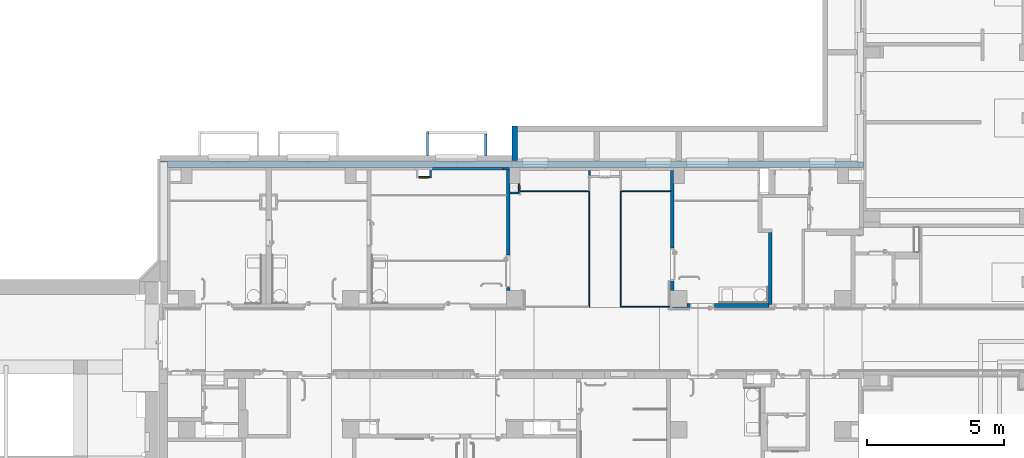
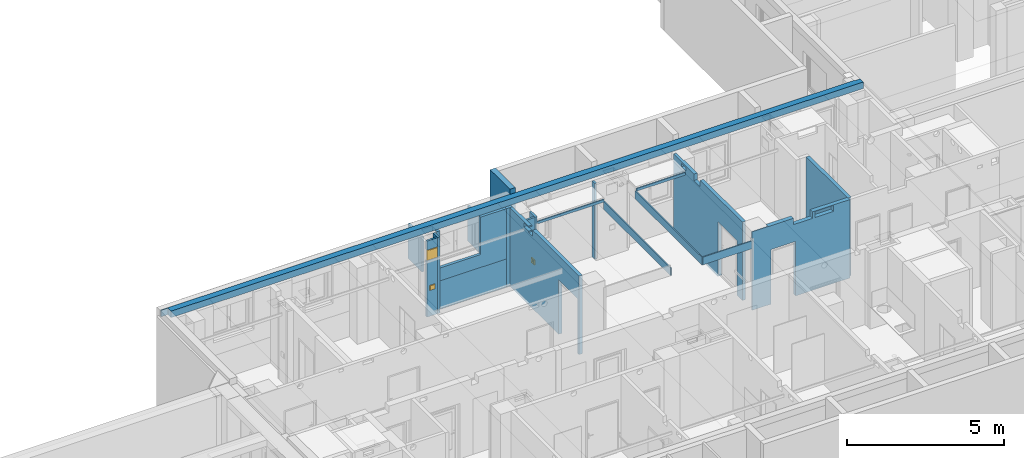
# One storey, part 25 of 84: 21 walls, 3 windows, 16 openings.
"""IFC4 building model written with IfcOpenShell, lengths in metres."""

from ifc_helpers import new_model, entity, si_unit, converted_unit, derived_unit, frame, frame_2d, origin, origin_with_axes, place, context, subcontext, project, spatial, polyline, rectangle, outline, extrude, faceted_brep, source, transform, mapped, material, layer, layer_set, layer_usage, element, fill, save


model = new_model("IFC4")

# Units and contexts
model_context = context("Model", 3, precision=1e-05, world=origin())
body_context = subcontext(model_context, "Body", "Model", "MODEL_VIEW")
ifc_project = project(units=[si_unit("LENGTHUNIT", "METRE"), si_unit("AREAUNIT", "SQUARE_METRE"), si_unit("VOLUMEUNIT", "CUBIC_METRE"), si_unit("MASSUNIT", "GRAM", prefix="KILO"), converted_unit("PLANEANGLEUNIT", "DEGREE", entity("IfcPlaneAngleMeasure", 0.0174532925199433), si_unit("PLANEANGLEUNIT", "RADIAN"), dimensions=[0, 0, 0, 0, 0, 0, 0]), derived_unit("THERMALTRANSMITTANCEUNIT", [(si_unit("POWERUNIT", "WATT"), 1), (si_unit("THERMODYNAMICTEMPERATUREUNIT", "KELVIN"), -1), (si_unit("LENGTHUNIT", "METRE"), -2)]), derived_unit("VOLUMETRICFLOWRATEUNIT", [(si_unit("LENGTHUNIT", "METRE"), 3), (converted_unit("TIMEUNIT", "hour", entity("IfcTimeMeasure", 3600.0), si_unit("TIMEUNIT", "SECOND"), dimensions=[0, 0, 1, 0, 0, 0, 0]), -1), (si_unit("LENGTHUNIT", "METRE"), -1)])], contexts=[model_context])

# Site, building, storey
site_placement = place(None, origin())
site = spatial("IfcSite", under=ifc_project, at=site_placement, Name="3. ASŘ", CompositionType="ELEMENT")
building_placement = place(site_placement, origin())
building = spatial("IfcBuilding", under=site, at=building_placement, Name="Pavilon C", CompositionType="ELEMENT")
storey_placement = place(building_placement, frame((0.0, 0.0, -3.3)))
storey = spatial("IfcBuildingStorey", under=building, at=storey_placement, Name="Půdorys 1.PP", CompositionType="ELEMENT", Elevation=-3.3)

# Walls
ifc_material_1 = material(Name="ZELEZOBETONOVÁ KCE")
ifc_layer_1 = layer(ifc_material_1, 0.2)
ifc_layer_set_1 = layer_set([ifc_layer_1])
ifc_layer_usage_1 = layer_usage(ifc_layer_set_1, "AXIS2", "POSITIVE", -0.1)
wall_1_placement = place(storey_placement, frame((12.1, 15.245, -0.4), z_axis=(0.0, 0.0, 1.0), x_axis=(0.0, 1.0, 0.0)))
element("IfcWall", 1, at=wall_1_placement, inside=storey, material=ifc_layer_usage_1, Name="ZELEZOBETONOVÁ KCE", context=body_context, shape_type="SweptSolid", body=[
    extrude(rectangle(XDim=1.26, YDim=0.2, at=frame_2d((0.63, 0.1), x_axis=(1.0, 0.0))), origin_with_axes(), (0.0, 0.0, 1.0), 3.78),
])
ifc_material_2 = material(Name="PÓROBETONOVÉ ZDIVO")
ifc_layer_2 = layer(ifc_material_2, 0.1)
ifc_layer_set_2 = layer_set([ifc_layer_2])
ifc_layer_usage_2 = layer_usage(ifc_layer_set_2, "AXIS2", "POSITIVE", 0.0)
wall_2_placement = place(storey_placement, frame((11.575, 15.0, -0.1), z_axis=(0.0, 0.0, 1.0), x_axis=(-1.0, 0.0, 0.0)))
element("IfcWall", 2, at=wall_2_placement, inside=storey, material=ifc_layer_usage_2, Name="PÓROBETONOVÉ ZDIVO", context=body_context, shape_type="SweptSolid", body=[
    extrude(rectangle(XDim=2.575, YDim=0.1, at=frame_2d((1.2875, 0.05), x_axis=(1.0, 0.0))), origin_with_axes(), (0.0, 0.0, 1.0), 1.1),
])
ifc_material_3 = material(Name="ZELEZOBETONOVÁ KCE")
ifc_layer_3 = layer(ifc_material_3, 0.200000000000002)
ifc_material_4 = material(Name="LIGNOPOR")
ifc_layer_4 = layer(ifc_material_4, 0.025)
ifc_layer_set_3 = layer_set([ifc_layer_3, ifc_layer_4])
ifc_layer_usage_3 = layer_usage(ifc_layer_set_3, "AXIS2", "POSITIVE", 0.0)
wall_3_placement = place(storey_placement, frame((-0.699999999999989, 15.0, 2.95), z_axis=(0.0, 0.0, 1.0), x_axis=(1.0, -2.85892244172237e-16, 0.0)))
element("IfcWall", 3, at=wall_3_placement, inside=storey, material=ifc_layer_usage_3, context=body_context, shape_type="SweptSolid", body=[
    extrude(outline(polyline([(0.25, 7.34743067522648e-15), (25.7, 7.34743067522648e-15), (25.7, 0.200000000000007), (25.5, 0.200000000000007), (25.5, 0.225000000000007), (-6.43257549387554e-17, 0.225000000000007), (-5.71784488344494e-17, 0.200000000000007), (0.25, 0.200000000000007), (0.25, 7.34743067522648e-15)])), frame((-0.25, -7.34743067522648e-15, 0.0), z_axis=(0.0, 0.0, 1.0), x_axis=(1.0, 0.0, 0.0)), (0.0, 0.0, 1.0), 0.25),
])
ifc_material_5 = material(Name="YTONG 100")
ifc_layer_5 = layer(ifc_material_5, 0.1)
ifc_layer_set_4 = layer_set([ifc_layer_5])
ifc_layer_usage_4 = layer_usage(ifc_layer_set_4, "AXIS2", "POSITIVE", 0.0)
wall_4_placement = place(storey_placement, frame((11.8, 15.0, -0.1), z_axis=(0.0, 0.0, 1.0), x_axis=(-1.0, -1.61687946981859e-14, 0.0)))
element("IfcWall", 4, at=wall_4_placement, inside=storey, material=ifc_layer_usage_4, Name="YTONG 100", context=body_context, shape_type="SweptSolid", body=[
    extrude(rectangle(XDim=0.224999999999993, YDim=0.1, at=frame_2d((0.112499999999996, 0.05), x_axis=(1.0, 0.0))), origin_with_axes(), (0.0, 0.0, 1.0), 3.05),
])
ifc_material_6 = material(Name="POHLEDOVY BETON")
ifc_layer_6 = layer(ifc_material_6, 0.08)
ifc_layer_set_5 = layer_set([ifc_layer_6])
ifc_layer_usage_5 = layer_usage(ifc_layer_set_5, "AXIS2", "POSITIVE", 0.0)
wall_5_placement = place(storey_placement, frame((8.85000000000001, 15.425, 1.15), z_axis=(0.0, 0.0, 1.0), x_axis=(0.0, 1.0, 0.0)))
element("IfcWall", 5, at=wall_5_placement, inside=storey, material=ifc_layer_usage_5, Name="STĚNA ANGLICKÉHO DVORKU", context=body_context, shape_type="SweptSolid", body=[
    extrude(rectangle(XDim=0.880000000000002, YDim=0.08, at=frame_2d((0.440000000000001, 0.04), x_axis=(1.0, 0.0))), origin_with_axes(), (0.0, 0.0, 1.0), 1.35),
])
ifc_material_7 = material(Name="POHLEDOVY BETON")
ifc_layer_7 = layer(ifc_material_7, 0.08)
ifc_layer_set_6 = layer_set([ifc_layer_7])
ifc_layer_usage_6 = layer_usage(ifc_layer_set_6, "AXIS2", "POSITIVE", 0.0)
wall_6_placement = place(storey_placement, frame((10.98, 15.425, 1.15), z_axis=(0.0, 0.0, 1.0), x_axis=(0.0, 1.0, 0.0)))
element("IfcWall", 6, at=wall_6_placement, inside=storey, material=ifc_layer_usage_6, Name="STĚNA ANGLICKÉHO DVORKU", context=body_context, shape_type="SweptSolid", body=[
    extrude(rectangle(XDim=0.800000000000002, YDim=0.08, at=frame_2d((0.400000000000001, 0.04), x_axis=(1.0, 0.0))), origin_with_axes(), (0.0, 0.0, 1.0), 1.35),
])
ifc_material_8 = material(Name="SDK SVISLA CAST PODHLEDU")
ifc_layer_8 = layer(ifc_material_8, 0.0400000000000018)
ifc_layer_set_7 = layer_set([ifc_layer_8])
ifc_layer_usage_7 = layer_usage(ifc_layer_set_7, "AXIS2", "POSITIVE", 0.0)
wall_7_placement = place(storey_placement, frame((14.7, 14.14, 2.3), z_axis=(0.0, 0.0, 1.0), x_axis=(0.0, -1.0, 0.0)))
element("IfcWall", 7, at=wall_7_placement, inside=storey, material=ifc_layer_usage_7, Name="SDK SVISLA CAST PODHLEDU", context=body_context, shape_type="SweptSolid", body=[
    extrude(rectangle(XDim=4.265, YDim=0.0400000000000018, at=frame_2d((2.1325, 0.0200000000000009), x_axis=(1.0, 0.0))), origin_with_axes(), (0.0, 0.0, 1.0), 0.3),
])
ifc_material_9 = material(Name="SDK SVISLA CAST PODHLEDU")
ifc_layer_9 = layer(ifc_material_9, 0.0400000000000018)
ifc_layer_set_8 = layer_set([ifc_layer_9])
ifc_layer_usage_8 = layer_usage(ifc_layer_set_8, "AXIS2", "POSITIVE", 0.0)
wall_8_placement = place(storey_placement, frame((15.9, 9.875, 2.3), z_axis=(0.0, 0.0, 1.0), x_axis=(0.0, 1.0, 0.0)))
element("IfcWall", 8, at=wall_8_placement, inside=storey, material=ifc_layer_usage_8, Name="SDK SVISLA CAST PODHLEDU", context=body_context, shape_type="SweptSolid", body=[
    extrude(rectangle(XDim=4.265, YDim=0.0400000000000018, at=frame_2d((2.1325, 0.0200000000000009), x_axis=(1.0, 0.0))), origin_with_axes(), (0.0, 0.0, 1.0), 0.3),
])
ifc_material_10 = material(Name="SDK SVISLA CAST PODHLEDU")
ifc_layer_10 = layer(ifc_material_10, 0.0400000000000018)
ifc_layer_set_9 = layer_set([ifc_layer_10])
ifc_layer_usage_9 = layer_usage(ifc_layer_set_9, "AXIS2", "POSITIVE", 0.0)
wall_9_placement = place(storey_placement, frame((15.9, 9.875, 2.3)))
element("IfcWall", 9, at=wall_9_placement, inside=storey, material=ifc_layer_usage_9, Name="SDK SVISLA CAST PODHLEDU", context=body_context, shape_type="SweptSolid", body=[
    extrude(rectangle(XDim=1.8, YDim=0.0400000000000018, at=frame_2d((0.899999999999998, 0.0200000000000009), x_axis=(1.0, 0.0))), origin_with_axes(), (0.0, 0.0, 1.0), 0.3),
])

# Wall, opening
ifc_material_11 = material(Name="YTONG 100")
ifc_layer_11 = layer(ifc_material_11, 0.1)
ifc_layer_set_10 = layer_set([ifc_layer_11])
ifc_layer_usage_10 = layer_usage(ifc_layer_set_10, "AXIS2", "POSITIVE", 0.0)
wall_10_placement = place(storey_placement, frame((9.00000000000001, 14.9, 1.0)))
wall_10 = element("IfcWall", 10, at=wall_10_placement, inside=storey, material=ifc_layer_usage_10, Name="YTONG 100", context=body_context, shape_type="SweptSolid", body=[
    extrude(rectangle(XDim=2.575, YDim=0.1, at=frame_2d((1.2875, 0.05), x_axis=(1.0, 0.0))), origin_with_axes(), (0.0, 0.0, 1.0), 1.95),
])
opening_1_placement = place(wall_10_placement, frame((0.124999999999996, 0.0, 0.5), z_axis=(0.0, 1.0, 0.0), x_axis=(0.0, 0.0, 1.0)))
element("IfcOpeningElement", 11, at=opening_1_placement, cuts=wall_10, Name="Okenní otvor", ObjectType="Opening", context=body_context, shape_type="SweptSolid", body=[
    extrude(outline(polyline([(0.0, 1.5), (1.45, 1.5), (1.45, 0.0), (0.0, 0.0), (0.0, 1.5)])), origin_with_axes(), (0.0, 0.0, 1.0), 0.1),
])

# Walls
ifc_material_12 = material(Name="SDK SVISLA CAST PODHLEDU")
ifc_layer_12 = layer(ifc_material_12, 0.0400000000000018)
ifc_layer_set_11 = layer_set([ifc_layer_12])
ifc_layer_usage_11 = layer_usage(ifc_layer_set_11, "AXIS2", "POSITIVE", 0.0)
wall_11_placement = place(storey_placement, frame((14.7, 14.14, 2.6), z_axis=(0.0, 0.0, 1.0), x_axis=(-1.0, 0.0, 0.0)))
element("IfcWall", 12, at=wall_11_placement, inside=storey, material=ifc_layer_usage_11, Name="SDK SVISLA CAST PODHLEDU", context=body_context, shape_type="SweptSolid", body=[
    extrude(rectangle(XDim=2.50000000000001, YDim=0.0400000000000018, at=frame_2d((1.25, 0.0200000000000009), x_axis=(1.0, 0.0))), origin_with_axes(), (0.0, 0.0, 1.0), 0.1),
])
ifc_material_13 = material(Name="SDK SVISLA CAST PODHLEDU")
ifc_layer_13 = layer(ifc_material_13, 0.0400000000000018)
ifc_layer_set_12 = layer_set([ifc_layer_13])
ifc_layer_usage_12 = layer_usage(ifc_layer_set_12, "AXIS2", "POSITIVE", 0.0)
wall_12_placement = place(storey_placement, frame((17.7, 14.14, 2.6), z_axis=(0.0, 0.0, 1.0), x_axis=(-1.0, 0.0, 0.0)))
element("IfcWall", 13, at=wall_12_placement, inside=storey, material=ifc_layer_usage_12, Name="SDK SVISLA CAST PODHLEDU", context=body_context, shape_type="SweptSolid", body=[
    extrude(rectangle(XDim=1.8, YDim=0.0400000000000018, at=frame_2d((0.899999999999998, 0.0200000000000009), x_axis=(1.0, 0.0))), origin_with_axes(), (0.0, 0.0, 1.0), 0.1),
])
ifc_material_14 = material(Name="SDK ŠACHTOVÁ STĚNA/SDK OPL. S PO")
ifc_layer_14 = layer(ifc_material_14, 0.075)
ifc_layer_set_13 = layer_set([ifc_layer_14])
ifc_layer_usage_13 = layer_usage(ifc_layer_set_13, "AXIS2", "POSITIVE", 0.0)
wall_13_placement = place(storey_placement, frame((14.775, 14.7, 0.0), z_axis=(0.0, 0.0, 1.0), x_axis=(0.0, 1.0, 0.0)))
element("IfcWall", 14, at=wall_13_placement, inside=storey, material=ifc_layer_usage_13, Name="SDK ŠACHTOVÁ STĚNA/SDK OPL. S PO", context=body_context, shape_type="SweptSolid", body=[
    extrude(rectangle(XDim=0.175, YDim=0.075, at=frame_2d((0.0875, 0.0375), x_axis=(1.0, 0.0))), origin_with_axes(), (0.0, 0.0, 1.0), 2.95),
])

# Wall, openings
ifc_material_15 = material(Name="SDK - 1 KCE + DVOJITÉ OPLÁŠTĚNÍ")
ifc_layer_15 = layer(ifc_material_15, 0.125)
ifc_layer_set_14 = layer_set([ifc_layer_15])
ifc_layer_usage_14 = layer_usage(ifc_layer_set_14, "AXIS2", "POSITIVE", 0.0)
wall_14_placement = place(storey_placement, frame((11.7, 14.9, -0.1), z_axis=(0.0, 0.0, 1.0), x_axis=(0.0, -1.0, 0.0)))
wall_14 = element("IfcWall", 15, at=wall_14_placement, inside=storey, material=ifc_layer_usage_14, Name="SDK - 1 KCE + DVOJITÉ OPLÁŠTĚNÍ", context=body_context, shape_type="SweptSolid", body=[
    extrude(rectangle(XDim=4.40000000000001, YDim=0.125, at=frame_2d((2.2, 0.0625), x_axis=(1.0, 0.0))), origin_with_axes(), (0.0, 0.0, 1.0), 3.05),
])
opening_2_placement = place(wall_14_placement, frame((4.30000000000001, 0.125, 0.0), z_axis=(0.0, -1.0, 0.0), x_axis=(0.0, 0.0, 1.0)))
element("IfcOpeningElement", 16, at=opening_2_placement, cuts=wall_14, Name="Dveřní otvor", ObjectType="Opening", context=body_context, shape_type="SweptSolid", body=[
    extrude(outline(polyline([(0.0, 1.2), (2.12, 1.2), (2.12, 0.0), (0.0, 0.0), (0.0, 1.2)])), origin_with_axes(), (0.0, 0.0, 1.0), 0.125),
])
opening_3_placement = place(wall_14_placement, frame((0.500000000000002, 0.125, 0.0), z_axis=(0.0, -1.0, 0.0), x_axis=(0.0, 0.0, 1.0)))
element("IfcOpeningElement", 17, at=opening_3_placement, cuts=wall_14, Name="Stěnová nika", ObjectType="Opening", context=body_context, shape_type="SweptSolid", body=[
    extrude(outline(polyline([(0.0, 0.500000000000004), (3.05, 0.500000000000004), (3.05, 0.0), (0.0, 0.0), (0.0, 0.500000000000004)])), origin_with_axes(), (0.0, 0.0, 1.0), 0.025),
])
opening_4_placement = place(wall_14_placement, frame((0.88766091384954, 1.81898940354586e-15, 2.85), z_axis=(0.0, 1.0, 0.0), x_axis=(0.0, 0.0, 1.0)))
element("IfcOpeningElement", 18, at=opening_4_placement, cuts=wall_14, Name="UT", ObjectType="Opening", context=body_context, shape_type="SweptSolid", body=[
    extrude(outline(polyline([(0.0, 0.3), (0.15, 0.3), (0.15, 0.0), (0.0, 0.0), (0.0, 0.3)])), origin_with_axes(), (0.0, 0.0, 1.0), 0.125),
])
opening_5_placement = place(wall_14_placement, frame((1.18766091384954, 0.0, 2.8), z_axis=(0.0, 1.0, 0.0), x_axis=(0.0, 0.0, 1.0)))
element("IfcOpeningElement", 19, at=opening_5_placement, cuts=wall_14, Name="VZT", ObjectType="Opening", context=body_context, shape_type="SweptSolid", body=[
    extrude(outline(polyline([(0.0, 0.26), (0.25, 0.26), (0.25, 0.0), (0.0, 0.0), (0.0, 0.26)])), origin_with_axes(), (0.0, 0.0, 1.0), 0.125),
])

# Wall, opening, window
ifc_material_16 = material(Name="SDK ŠACHTOVÁ STĚNA/SDK OPL. S PO")
ifc_layer_16 = layer(ifc_material_16, 0.075)
ifc_layer_set_15 = layer_set([ifc_layer_16])
ifc_layer_usage_15 = layer_usage(ifc_layer_set_15, "AXIS2", "POSITIVE", 0.0)
wall_15_placement = place(storey_placement, frame((12.2, 14.025, 0.0), z_axis=(0.0, 0.0, 1.0), x_axis=(0.0, 1.0, 0.0)))
wall_15 = element("IfcWall", 20, at=wall_15_placement, inside=storey, material=ifc_layer_usage_15, Name="SDK ŠACHTOVÁ STĚNA/SDK OPL. S PO", context=body_context, shape_type="SweptSolid", body=[
    extrude(rectangle(XDim=0.375, YDim=0.075, at=frame_2d((0.1875, 0.0375), x_axis=(1.0, 0.0))), origin_with_axes(), (0.0, 0.0, 1.0), 2.95),
])
opening_6_placement = place(wall_15_placement, frame((0.125, 0.0, 1.0), z_axis=(0.0, 1.0, 0.0), x_axis=(0.0, 0.0, 1.0)))
opening_6 = element("IfcOpeningElement", 21, at=opening_6_placement, cuts=wall_15, Name="Okenní otvor", ObjectType="Opening", context=body_context, shape_type="SweptSolid", body=[
    extrude(outline(polyline([(0.0, 0.2), (0.2, 0.2), (0.2, 0.0), (0.0, 0.0), (0.0, 0.2)])), origin_with_axes(), (0.0, 0.0, 1.0), 0.075),
])
shared_shape_1 = source(origin_with_axes(), body_context, "Body", "Brep", [
    faceted_brep([(0.0, 0.06, 0.2), (0.0, 0.06, 4.91096680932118e-19), (0.02, 0.06, 4.91096680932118e-19), (0.02, 0.06, 0.2), (0.0, 0.01, 6.61433067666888e-18), (0.0, 0.01, 0.2), (0.02, 0.01, 0.2), (0.02, 0.01, 6.61433067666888e-18)], [[[0, 1, 2, 3]], [[4, 5, 6, 7]], [[1, 0, 5, 4]], [[2, 1, 4, 7]], [[3, 2, 7, 6]], [[0, 3, 6, 5]]], orient=[[False], [False], [False], [False], [False], [False]]),
    faceted_brep([(0.18, 0.06, 0.2), (0.18, 0.06, 4.91096680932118e-19), (0.2, 0.06, 4.91096680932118e-19), (0.2, 0.06, 0.2), (0.18, 0.01, 6.61433067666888e-18), (0.18, 0.01, 0.2), (0.2, 0.01, 0.2), (0.2, 0.01, 6.61433067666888e-18)], [[[0, 1, 2, 3]], [[4, 5, 6, 7]], [[1, 0, 5, 4]], [[2, 1, 4, 7]], [[3, 2, 7, 6]], [[0, 3, 6, 5]]], orient=[[False], [False], [False], [False], [False], [False]]),
    faceted_brep([(0.02, 0.06, 0.02), (0.02, 0.06, 4.91096680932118e-19), (0.18, 0.06, 4.91096680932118e-19), (0.18, 0.06, 0.02), (0.02, 0.01, 6.61433067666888e-18), (0.02, 0.01, 0.02), (0.18, 0.01, 0.02), (0.18, 0.01, 6.61433067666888e-18)], [[[0, 1, 2, 3]], [[4, 5, 6, 7]], [[1, 0, 5, 4]], [[2, 1, 4, 7]], [[3, 2, 7, 6]], [[0, 3, 6, 5]]], orient=[[False], [False], [False], [False], [False], [False]]),
    faceted_brep([(0.02, 0.06, 0.2), (0.02, 0.06, 0.18), (0.18, 0.06, 0.18), (0.18, 0.06, 0.2), (0.02, 0.01, 0.18), (0.02, 0.01, 0.2), (0.18, 0.01, 0.2), (0.18, 0.01, 0.18)], [[[0, 1, 2, 3]], [[4, 5, 6, 7]], [[1, 0, 5, 4]], [[2, 1, 4, 7]], [[3, 2, 7, 6]], [[0, 3, 6, 5]]], orient=[[False], [False], [False], [False], [False], [False]]),
    faceted_brep([(0.02, 0.01, 0.18), (0.02, 0.01, 0.02), (0.18, 0.01, 0.02), (0.18, 0.01, 0.18), (0.02, 0.0, 0.02), (0.02, 1.95399252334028e-17, 0.18), (0.18, 1.95399252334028e-17, 0.18), (0.18, 0.0, 0.02)], [[[0, 1, 2, 3]], [[4, 5, 6, 7]], [[1, 0, 5, 4]], [[2, 1, 4, 7]], [[3, 2, 7, 6]], [[0, 3, 6, 5]]], orient=[[False], [False], [False], [False], [False], [False]]),
])
window_1_placement = place(opening_6_placement, frame((0.0, 0.199999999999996, -0.00999999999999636), z_axis=(1.0, 0.0, 0.0), x_axis=(0.0, -1.0, 1.22464679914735e-16)))
window_1 = element("IfcWindow", 22, at=window_1_placement, inside=storey, OverallHeight=0.2, OverallWidth=0.2, PartitioningType="USERDEFINED", PredefinedType="WINDOW", context=body_context, shape_type="MappedRepresentation", body=[
    mapped(shared_shape_1, transform((0.0, 0.0, 0.0), x_axis=(1.0, 0.0, 0.0), y_axis=(0.0, -1.0, 0.0), z_axis=(0.0, 0.0, 1.0), scale=1.0)),
])
fill(opening_6, window_1)

# Wall
ifc_material_17 = material(Name="SDK ŠACHTOVÁ STĚNA/SDK OPL. S PO")
ifc_layer_17 = layer(ifc_material_17, 0.075)
ifc_layer_set_16 = layer_set([ifc_layer_17])
ifc_layer_usage_16 = layer_usage(ifc_layer_set_16, "AXIS2", "POSITIVE", 0.0)
wall_16_placement = place(storey_placement, frame((11.825, 14.025, 0.0)))
element("IfcWall", 23, at=wall_16_placement, inside=storey, material=ifc_layer_usage_16, Name="SDK ŠACHTOVÁ STĚNA/SDK OPL. S PO", context=body_context, shape_type="SweptSolid", body=[
    extrude(rectangle(XDim=0.299999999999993, YDim=0.075, at=frame_2d((0.149999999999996, 0.0375), x_axis=(1.0, 0.0))), origin_with_axes(), (0.0, 0.0, 1.0), 2.95),
])

# Wall, openings, windows
ifc_material_18 = material(Name="SDK ŠACHTOVÁ STĚNA/SDK OPL. S PO")
ifc_layer_18 = layer(ifc_material_18, 0.075)
ifc_layer_set_17 = layer_set([ifc_layer_18])
ifc_layer_usage_17 = layer_usage(ifc_layer_set_17, "AXIS2", "POSITIVE", 0.0)
wall_17_placement = place(storey_placement, frame((8.87500000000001, 14.6749999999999, 0.0), z_axis=(0.0, 0.0, 1.0), x_axis=(-1.0, 0.0, 0.0)))
wall_17 = element("IfcWall", 24, at=wall_17_placement, inside=storey, material=ifc_layer_usage_17, Name="SDK ŠACHTOVÁ STĚNA/SDK OPL. S PO", context=body_context, shape_type="SweptSolid", body=[
    extrude(rectangle(XDim=0.4, YDim=0.075, at=frame_2d((0.2, 0.0375), x_axis=(1.0, 0.0))), origin_with_axes(), (0.0, 0.0, 1.0), 2.95),
])
opening_7_placement = place(wall_17_placement, frame((0.4, 0.075, 2.2), z_axis=(0.0, -1.0, 0.0), x_axis=(0.0, 0.0, 1.0)))
opening_7 = element("IfcOpeningElement", 25, at=opening_7_placement, cuts=wall_17, Name="Okenní otvor", ObjectType="Opening", context=body_context, shape_type="SweptSolid", body=[
    extrude(outline(polyline([(0.0, 0.4), (0.4, 0.4), (0.4, 0.0), (0.0, 0.0), (0.0, 0.4)])), origin_with_axes(), (0.0, 0.0, 1.0), 0.075),
])
opening_8_placement = place(wall_17_placement, frame((0.3, 0.075, 1.0), z_axis=(0.0, -1.0, 0.0), x_axis=(0.0, 0.0, 1.0)))
opening_8 = element("IfcOpeningElement", 26, at=opening_8_placement, cuts=wall_17, Name="Okenní otvor", ObjectType="Opening", context=body_context, shape_type="SweptSolid", body=[
    extrude(outline(polyline([(0.0, 0.2), (0.2, 0.2), (0.2, 0.0), (0.0, 0.0), (0.0, 0.2)])), origin_with_axes(), (0.0, 0.0, 1.0), 0.075),
])
shared_shape_2 = source(origin_with_axes(), body_context, "Body", "Brep", [
    faceted_brep([(0.0, 0.06, 0.2), (0.0, 0.06, 4.91096680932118e-19), (0.02, 0.06, 4.91096680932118e-19), (0.02, 0.06, 0.2), (0.0, 0.01, 6.61433067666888e-18), (0.0, 0.01, 0.2), (0.02, 0.01, 0.2), (0.02, 0.01, 6.61433067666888e-18)], [[[0, 1, 2, 3]], [[4, 5, 6, 7]], [[1, 0, 5, 4]], [[2, 1, 4, 7]], [[3, 2, 7, 6]], [[0, 3, 6, 5]]], orient=[[False], [False], [False], [False], [False], [False]]),
    faceted_brep([(0.18, 0.06, 0.2), (0.18, 0.06, 4.91096680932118e-19), (0.2, 0.06, 4.91096680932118e-19), (0.2, 0.06, 0.2), (0.18, 0.01, 6.61433067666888e-18), (0.18, 0.01, 0.2), (0.2, 0.01, 0.2), (0.2, 0.01, 6.61433067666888e-18)], [[[0, 1, 2, 3]], [[4, 5, 6, 7]], [[1, 0, 5, 4]], [[2, 1, 4, 7]], [[3, 2, 7, 6]], [[0, 3, 6, 5]]], orient=[[False], [False], [False], [False], [False], [False]]),
    faceted_brep([(0.02, 0.06, 0.02), (0.02, 0.06, 4.91096680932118e-19), (0.18, 0.06, 4.91096680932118e-19), (0.18, 0.06, 0.02), (0.02, 0.01, 6.61433067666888e-18), (0.02, 0.01, 0.02), (0.18, 0.01, 0.02), (0.18, 0.01, 6.61433067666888e-18)], [[[0, 1, 2, 3]], [[4, 5, 6, 7]], [[1, 0, 5, 4]], [[2, 1, 4, 7]], [[3, 2, 7, 6]], [[0, 3, 6, 5]]], orient=[[False], [False], [False], [False], [False], [False]]),
    faceted_brep([(0.02, 0.06, 0.2), (0.02, 0.06, 0.18), (0.18, 0.06, 0.18), (0.18, 0.06, 0.2), (0.02, 0.01, 0.18), (0.02, 0.01, 0.2), (0.18, 0.01, 0.2), (0.18, 0.01, 0.18)], [[[0, 1, 2, 3]], [[4, 5, 6, 7]], [[1, 0, 5, 4]], [[2, 1, 4, 7]], [[3, 2, 7, 6]], [[0, 3, 6, 5]]], orient=[[False], [False], [False], [False], [False], [False]]),
    faceted_brep([(0.02, 0.01, 0.18), (0.02, 0.01, 0.02), (0.18, 0.01, 0.02), (0.18, 0.01, 0.18), (0.02, 0.0, 0.02), (0.02, 1.95399252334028e-17, 0.18), (0.18, 1.95399252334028e-17, 0.18), (0.18, 0.0, 0.02)], [[[0, 1, 2, 3]], [[4, 5, 6, 7]], [[1, 0, 5, 4]], [[2, 1, 4, 7]], [[3, 2, 7, 6]], [[0, 3, 6, 5]]], orient=[[False], [False], [False], [False], [False], [False]]),
])
window_2_placement = place(opening_8_placement, frame((0.0, 0.0, -0.01), z_axis=(1.0, 0.0, 0.0), x_axis=(0.0, 1.0, 0.0)))
window_2 = element("IfcWindow", 27, at=window_2_placement, inside=storey, OverallHeight=0.2, OverallWidth=0.2, PartitioningType="USERDEFINED", PredefinedType="WINDOW", context=body_context, shape_type="MappedRepresentation", body=[
    mapped(shared_shape_2, transform((0.0, 0.0, 0.0), x_axis=(1.0, 0.0, 0.0), y_axis=(0.0, 1.0, 0.0), z_axis=(0.0, 0.0, 1.0), scale=1.0)),
])
fill(opening_8, window_2)
shared_shape_3 = source(origin_with_axes(), body_context, "Body", "Brep", [
    faceted_brep([(0.0, 0.06, 0.4), (0.0, 0.06, 4.91096680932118e-19), (0.02, 0.06, 4.91096680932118e-19), (0.02, 0.06, 0.4), (0.0, 0.01, 6.61433067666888e-18), (0.0, 0.0100000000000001, 0.4), (0.02, 0.0100000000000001, 0.4), (0.02, 0.01, 6.61433067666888e-18)], [[[0, 1, 2, 3]], [[4, 5, 6, 7]], [[1, 0, 5, 4]], [[2, 1, 4, 7]], [[3, 2, 7, 6]], [[0, 3, 6, 5]]], orient=[[False], [False], [False], [False], [False], [False]]),
    faceted_brep([(0.38, 0.06, 0.4), (0.38, 0.06, 4.91096680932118e-19), (0.4, 0.06, 4.91096680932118e-19), (0.4, 0.06, 0.4), (0.38, 0.01, 6.61433067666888e-18), (0.38, 0.0100000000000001, 0.4), (0.4, 0.0100000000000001, 0.4), (0.4, 0.01, 6.61433067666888e-18)], [[[0, 1, 2, 3]], [[4, 5, 6, 7]], [[1, 0, 5, 4]], [[2, 1, 4, 7]], [[3, 2, 7, 6]], [[0, 3, 6, 5]]], orient=[[False], [False], [False], [False], [False], [False]]),
    faceted_brep([(0.02, 0.06, 0.02), (0.02, 0.06, 4.91096680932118e-19), (0.38, 0.06, 4.91096680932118e-19), (0.38, 0.06, 0.02), (0.02, 0.01, 6.61433067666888e-18), (0.02, 0.01, 0.02), (0.38, 0.01, 0.02), (0.38, 0.01, 6.61433067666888e-18)], [[[0, 1, 2, 3]], [[4, 5, 6, 7]], [[1, 0, 5, 4]], [[2, 1, 4, 7]], [[3, 2, 7, 6]], [[0, 3, 6, 5]]], orient=[[False], [False], [False], [False], [False], [False]]),
    faceted_brep([(0.02, 0.06, 0.4), (0.02, 0.06, 0.38), (0.38, 0.06, 0.38), (0.38, 0.06, 0.4), (0.02, 0.0100000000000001, 0.38), (0.02, 0.0100000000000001, 0.4), (0.38, 0.0100000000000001, 0.4), (0.38, 0.0100000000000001, 0.38)], [[[0, 1, 2, 3]], [[4, 5, 6, 7]], [[1, 0, 5, 4]], [[2, 1, 4, 7]], [[3, 2, 7, 6]], [[0, 3, 6, 5]]], orient=[[False], [False], [False], [False], [False], [False]]),
    faceted_brep([(0.02, 0.01, 0.38), (0.02, 0.01, 0.02), (0.38, 0.01, 0.02), (0.38, 0.01, 0.38), (0.02, 0.0, 0.02), (0.02, 4.44089209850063e-17, 0.38), (0.38, 4.44089209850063e-17, 0.38), (0.38, 0.0, 0.02)], [[[0, 1, 2, 3]], [[4, 5, 6, 7]], [[1, 0, 5, 4]], [[2, 1, 4, 7]], [[3, 2, 7, 6]], [[0, 3, 6, 5]]], orient=[[False], [False], [False], [False], [False], [False]]),
])
window_3_placement = place(opening_7_placement, frame((0.0, 0.0, -0.01), z_axis=(1.0, 0.0, 0.0), x_axis=(0.0, 1.0, 0.0)))
window_3 = element("IfcWindow", 28, at=window_3_placement, inside=storey, OverallHeight=0.4, OverallWidth=0.4, PartitioningType="USERDEFINED", PredefinedType="WINDOW", context=body_context, shape_type="MappedRepresentation", body=[
    mapped(shared_shape_3, transform((0.0, 0.0, 0.0), x_axis=(1.0, 0.0, 0.0), y_axis=(0.0, 1.0, 0.0), z_axis=(0.0, 0.0, 1.0), scale=1.0)),
])
fill(opening_7, window_3)

# Wall
ifc_material_19 = material(Name="SDK ŠACHTOVÁ STĚNA/SDK OPL. S PO")
ifc_layer_19 = layer(ifc_material_19, 0.075)
ifc_layer_set_18 = layer_set([ifc_layer_19])
ifc_layer_usage_18 = layer_usage(ifc_layer_set_18, "AXIS2", "POSITIVE", 0.0)
wall_18_placement = place(storey_placement, frame((8.87500000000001, 14.9, 0.0), z_axis=(0.0, 0.0, 1.0), x_axis=(0.0, -1.0, 0.0)))
element("IfcWall", 29, at=wall_18_placement, inside=storey, material=ifc_layer_usage_18, Name="SDK ŠACHTOVÁ STĚNA/SDK OPL. S PO", context=body_context, shape_type="SweptSolid", body=[
    extrude(rectangle(XDim=0.300000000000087, YDim=0.075, at=frame_2d((0.150000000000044, 0.0375), x_axis=(1.0, 0.0))), origin_with_axes(), (0.0, 0.0, 1.0), 2.95),
])

# Wall, openings
ifc_material_20 = material(Name="SDK - 1 KCE + DVOJITÉ OPLÁŠTĚNÍ")
ifc_layer_20 = layer(ifc_material_20, 0.125)
ifc_layer_set_19 = layer_set([ifc_layer_20])
ifc_layer_usage_19 = layer_usage(ifc_layer_set_19, "AXIS2", "POSITIVE", 0.0)
wall_19_placement = place(storey_placement, frame((17.7, 14.875, -0.1), z_axis=(0.0, 0.0, 1.0), x_axis=(0.0, -1.0, 0.0)))
wall_19 = element("IfcWall", 30, at=wall_19_placement, inside=storey, material=ifc_layer_usage_19, Name="SDK - 1 KCE + DVOJITÉ OPLÁŠTĚNÍ", context=body_context, shape_type="SweptSolid", body=[
    extrude(rectangle(XDim=4.375, YDim=0.125, at=frame_2d((2.1875, 0.0625), x_axis=(1.0, 0.0))), origin_with_axes(), (0.0, 0.0, 1.0), 3.05),
])
opening_9_placement = place(wall_19_placement, frame((4.025, 0.125, 0.0), z_axis=(0.0, -1.0, 0.0), x_axis=(0.0, 0.0, 1.0)))
element("IfcOpeningElement", 31, at=opening_9_placement, cuts=wall_19, Name="Dveřní otvor", ObjectType="Opening", context=body_context, shape_type="SweptSolid", body=[
    extrude(outline(polyline([(0.0, 1.2), (2.12, 1.2), (2.12, 0.0), (0.0, 0.0), (0.0, 1.2)])), origin_with_axes(), (0.0, 0.0, 1.0), 0.125),
])
opening_10_placement = place(wall_19_placement, frame((0.475, 0.125, 0.0), z_axis=(0.0, -1.0, 0.0), x_axis=(0.0, 0.0, 1.0)))
element("IfcOpeningElement", 32, at=opening_10_placement, cuts=wall_19, Name="Stěnová nika", ObjectType="Opening", context=body_context, shape_type="SweptSolid", body=[
    extrude(outline(polyline([(0.0, 0.475), (3.05, 0.475), (3.05, 0.0), (0.0, 0.0), (0.0, 0.475)])), origin_with_axes(), (0.0, 0.0, 1.0), 0.025),
])
opening_11_placement = place(wall_19_placement, frame((0.498176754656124, 0.0, 2.85), z_axis=(0.0, 1.0, 0.0), x_axis=(0.0, 0.0, 1.0)))
element("IfcOpeningElement", 33, at=opening_11_placement, cuts=wall_19, Name="UT", ObjectType="Opening", context=body_context, shape_type="SweptSolid", body=[
    extrude(outline(polyline([(0.0, 0.3), (0.15, 0.3), (0.15, 0.0), (0.0, 0.0), (0.0, 0.3)])), origin_with_axes(), (0.0, 0.0, 1.0), 0.125),
])
opening_12_placement = place(wall_19_placement, frame((1.29817675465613, 0.0, 2.8), z_axis=(0.0, 1.0, 0.0), x_axis=(0.0, 0.0, 1.0)))
element("IfcOpeningElement", 34, at=opening_12_placement, cuts=wall_19, Name="VZT", ObjectType="Opening", context=body_context, shape_type="SweptSolid", body=[
    extrude(outline(polyline([(0.0, 0.4), (0.25, 0.4), (0.25, 0.0), (0.0, 0.0), (0.0, 0.4)])), origin_with_axes(), (0.0, 0.0, 1.0), 0.125),
])

ifc_material_21 = material(Name="SDK - 1 KCE + DVOJITÉ OPLÁŠTĚNÍ")
ifc_layer_21 = layer(ifc_material_21, 0.15)
ifc_layer_set_20 = layer_set([ifc_layer_21])
ifc_layer_usage_20 = layer_usage(ifc_layer_set_20, "AXIS2", "POSITIVE", 0.0)
wall_20_placement = place(storey_placement, frame((17.7, 9.875, -0.1)))
wall_20 = element("IfcWall", 35, at=wall_20_placement, inside=storey, material=ifc_layer_usage_20, Name="SDK - 1 KCE + DVOJITÉ OPLÁŠTĚNÍ", context=body_context, shape_type="SweptSolid", body=[
    extrude(outline(polyline([(0.0, 0.0), (3.6, 0.0), (3.6, 0.1), (3.575, 0.1), (3.575, 0.15), (0.0, 0.15), (0.0, 0.0)])), origin_with_axes(), (0.0, 0.0, 1.0), 3.05),
])
opening_13_placement = place(wall_20_placement, frame((0.700000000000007, 0.0, 0.0), z_axis=(0.0, 1.0, 0.0), x_axis=(0.0, 0.0, 1.0)))
element("IfcOpeningElement", 36, at=opening_13_placement, cuts=wall_20, Name="Dveřní otvor", ObjectType="Opening", context=body_context, shape_type="SweptSolid", body=[
    extrude(outline(polyline([(0.0, 0.9), (2.12, 0.9), (2.12, 0.0), (0.0, 0.0), (0.0, 0.9)])), origin_with_axes(), (0.0, 0.0, 1.0), 0.15),
])
opening_14_placement = place(wall_20_placement, frame((0.600000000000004, 0.15, 0.0), z_axis=(0.0, -1.0, 0.0), x_axis=(0.0, 0.0, 1.0)))
element("IfcOpeningElement", 37, at=opening_14_placement, cuts=wall_20, Name="Prostup stěnou", ObjectType="Opening", context=body_context, shape_type="SweptSolid", body=[
    extrude(outline(polyline([(0.0, 0.600000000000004), (3.05, 0.600000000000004), (3.05, 0.0), (0.0, 0.0), (0.0, 0.600000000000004)])), origin_with_axes(), (0.0, 0.0, 1.0), 0.125),
])
opening_15_placement = place(wall_20_placement, frame((2.21889999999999, 0.15, 2.8), z_axis=(0.0, -1.0, 0.0), x_axis=(0.0, 0.0, 1.0)))
element("IfcOpeningElement", 38, at=opening_15_placement, cuts=wall_20, Name="VZT", ObjectType="Opening", context=body_context, shape_type="SweptSolid", body=[
    extrude(outline(polyline([(0.0, 0.7), (0.25, 0.7), (0.25, 0.0), (0.0, 0.0), (0.0, 0.7)])), origin_with_axes(), (0.0, 0.0, 1.0), 0.15),
])
opening_16_placement = place(wall_20_placement, frame((2.98889999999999, 0.15, 2.8), z_axis=(0.0, -1.0, 0.0), x_axis=(0.0, 0.0, 1.0)))
element("IfcOpeningElement", 39, at=opening_16_placement, cuts=wall_20, Name="UT+ZTI", ObjectType="Opening", context=body_context, shape_type="SweptSolid", body=[
    extrude(outline(polyline([(0.0, 0.67), (0.23, 0.67), (0.23, 0.0), (0.0, 0.0), (0.0, 0.67)])), origin_with_axes(), (0.0, 0.0, 1.0), 0.15),
])

# Wall
ifc_material_22 = material(Name="SDK - 1 KCE + DVOJITÉ OPLÁŠTĚNÍ")
ifc_layer_22 = layer(ifc_material_22, 0.125)
ifc_layer_set_21 = layer_set([ifc_layer_22])
ifc_layer_usage_21 = layer_usage(ifc_layer_set_21, "AXIS2", "POSITIVE", 0.0)
wall_21_placement = place(storey_placement, frame((21.275, 12.625, -0.1), z_axis=(0.0, 0.0, 1.0), x_axis=(0.0, -1.0, 0.0)))
element("IfcWall", 40, at=wall_21_placement, inside=storey, material=ifc_layer_usage_21, Name="SDK - 1 KCE + DVOJITÉ OPLÁŠTĚNÍ", context=body_context, shape_type="SweptSolid", body=[
    extrude(rectangle(XDim=2.65, YDim=0.125, at=frame_2d((1.325, 0.0625), x_axis=(1.0, 0.0))), origin_with_axes(), (0.0, 0.0, 1.0), 3.05),
])

save(model, "model.ifc")
